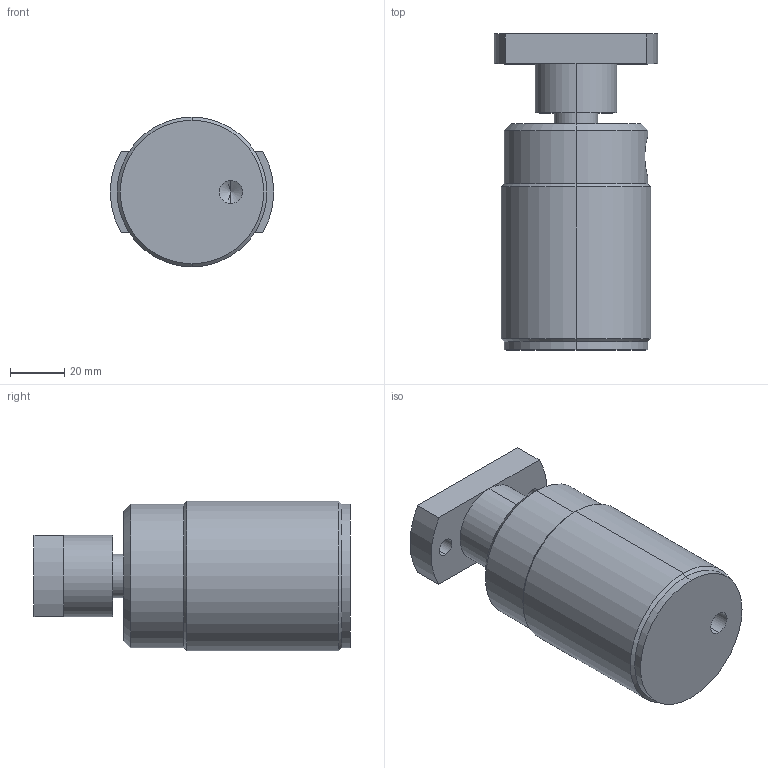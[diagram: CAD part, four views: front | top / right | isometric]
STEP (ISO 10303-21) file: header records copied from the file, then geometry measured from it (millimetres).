
FILE_DESCRIPTION (( 'STEP AP214' ), '1' );
FILE_NAME ('876-40-16-R-F.step', '2019-01-30T10:41:42', ( 'user' ), ( '' ), 'SwSTEP 2.0', 'SolidWorks 2017', '' );
FILE_SCHEMA (( 'AUTOMOTIVE_DESIGN' ));
Length unit declared in the file: millimetre
Products named in the file (3): Kopie von Kolben^876_40-L-F; Kopie von Zylinder^876_40-R; 876-40-16-R-F
Assembly tree (2 placements, depth 2):
  876-40-16-R-F
    Kopie von Zylinder^876_40-R
    Kopie von Kolben^876_40-L-F
Bounding box: 60 x 116 x 55 mm (x, y, z)
Volume: 190277.1 mm3; surface area: 41031 mm2
Topology: 2 solids, 3 shells, 77 faces, 170 edges, 104 vertices
Faces by surface type: cylinder 35, plane 28, cone 14
Entity records: 2606 total; most frequent: CARTESIAN_POINT 508, DIRECTION 402, ORIENTED_EDGE 332, EDGE_CURVE 166, AXIS2_PLACEMENT_3D 158, VERTEX_POINT 104, EDGE_LOOP 92, LINE 86
